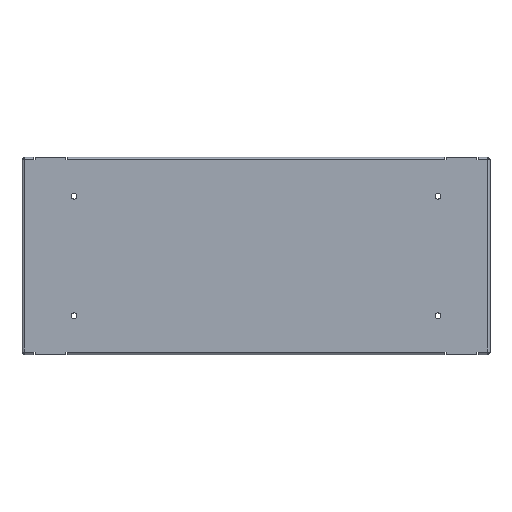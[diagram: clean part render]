
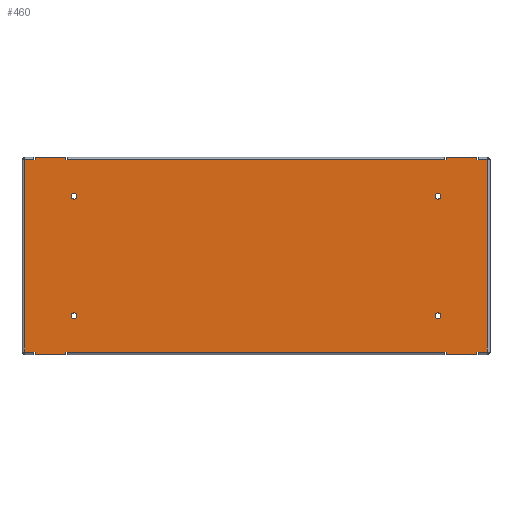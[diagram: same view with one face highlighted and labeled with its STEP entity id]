
A CAD part, top view. The second image highlights one B-rep face of the part: STEP entity #460.
In plain terms, the highlighted planar face has unit normal (0, 0, 1).
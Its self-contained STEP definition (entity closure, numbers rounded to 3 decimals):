
#460=ADVANCED_FACE('',(#1854,#1856,#1858,#1860,#1862),#1864,.F.);
#1854=FACE_BOUND('',#1855,.T.);
#1855=EDGE_LOOP('',(#3238,#3239,#3240,#3241,#3242,#3243,#3244,#3245,#3246,#3247,
#3248,#3249,#3250,#3251,#3252,#3253,#3254,#3255,#3256,#3257,#3258,#3259,#3260,#3261,
#3262,#3263,#3264,#3265));
#1856=FACE_BOUND('',#1857,.T.);
#1857=EDGE_LOOP('',(#3266));
#1858=FACE_BOUND('',#1859,.T.);
#1859=EDGE_LOOP('',(#3267));
#1860=FACE_BOUND('',#1861,.T.);
#1861=EDGE_LOOP('',(#3268));
#1862=FACE_BOUND('',#1863,.T.);
#1863=EDGE_LOOP('',(#3269));
#1864=PLANE('',#1865);
#1865=AXIS2_PLACEMENT_3D('',#1866,#1867,#1868);
#1866=CARTESIAN_POINT('',(0.,0.,0.));
#1867=DIRECTION('',(0.,0.,-1.));
#1868=DIRECTION('',(-1.,0.,0.));
#3238=ORIENTED_EDGE('',*,*,#3938,.T.);
#3239=ORIENTED_EDGE('',*,*,#3837,.T.);
#3240=ORIENTED_EDGE('',*,*,#3821,.T.);
#3241=ORIENTED_EDGE('',*,*,#3939,.F.);
#3242=ORIENTED_EDGE('',*,*,#3940,.F.);
#3243=ORIENTED_EDGE('',*,*,#3941,.F.);
#3244=ORIENTED_EDGE('',*,*,#3823,.T.);
#3245=ORIENTED_EDGE('',*,*,#3829,.T.);
#3246=ORIENTED_EDGE('',*,*,#3813,.T.);
#3247=ORIENTED_EDGE('',*,*,#3942,.F.);
#3248=ORIENTED_EDGE('',*,*,#3943,.F.);
#3249=ORIENTED_EDGE('',*,*,#3944,.F.);
#3250=ORIENTED_EDGE('',*,*,#3815,.T.);
#3251=ORIENTED_EDGE('',*,*,#3831,.T.);
#3252=ORIENTED_EDGE('',*,*,#3945,.T.);
#3253=ORIENTED_EDGE('',*,*,#3946,.T.);
#3254=ORIENTED_EDGE('',*,*,#3947,.F.);
#3255=ORIENTED_EDGE('',*,*,#3948,.T.);
#3256=ORIENTED_EDGE('',*,*,#3949,.T.);
#3257=ORIENTED_EDGE('',*,*,#3950,.T.);
#3258=ORIENTED_EDGE('',*,*,#3882,.F.);
#3259=ORIENTED_EDGE('',*,*,#3890,.T.);
#3260=ORIENTED_EDGE('',*,*,#3951,.F.);
#3261=ORIENTED_EDGE('',*,*,#3952,.T.);
#3262=ORIENTED_EDGE('',*,*,#3953,.T.);
#3263=ORIENTED_EDGE('',*,*,#3954,.T.);
#3264=ORIENTED_EDGE('',*,*,#3886,.F.);
#3265=ORIENTED_EDGE('',*,*,#3894,.T.);
#3266=ORIENTED_EDGE('',*,*,#3793,.T.);
#3267=ORIENTED_EDGE('',*,*,#3795,.T.);
#3268=ORIENTED_EDGE('',*,*,#3807,.F.);
#3269=ORIENTED_EDGE('',*,*,#3809,.F.);
#3793=EDGE_CURVE('',#4167,#4167,#4168,.T.);
#3795=EDGE_CURVE('',#4171,#4171,#4172,.T.);
#3807=EDGE_CURVE('',#4195,#4195,#4196,.T.);
#3809=EDGE_CURVE('',#4199,#4199,#4200,.T.);
#3813=EDGE_CURVE('',#4208,#4206,#4209,.T.);
#3815=EDGE_CURVE('',#4211,#4212,#4213,.T.);
#3821=EDGE_CURVE('',#4224,#4222,#4225,.T.);
#3823=EDGE_CURVE('',#4227,#4228,#4229,.T.);
#3829=EDGE_CURVE('',#4228,#4208,#4239,.T.);
#3831=EDGE_CURVE('',#4212,#4241,#4242,.T.);
#3837=EDGE_CURVE('',#4252,#4224,#4253,.T.);
#3882=EDGE_CURVE('',#4324,#4320,#4326,.T.);
#3886=EDGE_CURVE('',#4332,#4328,#4334,.T.);
#3890=EDGE_CURVE('',#4324,#4339,#4341,.T.);
#3894=EDGE_CURVE('',#4332,#4346,#4348,.T.);
#3938=EDGE_CURVE('',#4346,#4252,#4420,.T.);
#3939=EDGE_CURVE('',#4421,#4222,#4422,.T.);
#3940=EDGE_CURVE('',#4423,#4421,#4424,.T.);
#3941=EDGE_CURVE('',#4227,#4423,#4425,.T.);
#3942=EDGE_CURVE('',#4426,#4206,#4427,.T.);
#3943=EDGE_CURVE('',#4428,#4426,#4429,.T.);
#3944=EDGE_CURVE('',#4211,#4428,#4430,.T.);
#3945=EDGE_CURVE('',#4241,#4431,#4432,.T.);
#3946=EDGE_CURVE('',#4431,#4433,#4434,.T.);
#3947=EDGE_CURVE('',#4435,#4433,#4436,.T.);
#3948=EDGE_CURVE('',#4435,#4437,#4438,.T.);
#3949=EDGE_CURVE('',#4437,#4439,#4440,.T.);
#3950=EDGE_CURVE('',#4439,#4320,#4441,.T.);
#3951=EDGE_CURVE('',#4442,#4339,#4443,.T.);
#3952=EDGE_CURVE('',#4442,#4444,#4445,.T.);
#3953=EDGE_CURVE('',#4444,#4446,#4447,.T.);
#3954=EDGE_CURVE('',#4446,#4328,#4448,.T.);
#4167=VERTEX_POINT('',#4779);
#4168=CIRCLE('',#4780,3.65);
#4171=VERTEX_POINT('',#4789);
#4172=CIRCLE('',#4790,3.65);
#4195=VERTEX_POINT('',#4849);
#4196=CIRCLE('',#4850,3.65);
#4199=VERTEX_POINT('',#4859);
#4200=CIRCLE('',#4860,3.65);
#4206=VERTEX_POINT('',#4874);
#4208=VERTEX_POINT('',#4878);
#4209=LINE('',#4879,#4880);
#4211=VERTEX_POINT('',#4885);
#4212=VERTEX_POINT('',#4886);
#4213=LINE('',#4887,#4888);
#4222=VERTEX_POINT('',#4906);
#4224=VERTEX_POINT('',#4910);
#4225=LINE('',#4911,#4912);
#4227=VERTEX_POINT('',#4917);
#4228=VERTEX_POINT('',#4918);
#4229=LINE('',#4919,#4920);
#4239=LINE('',#4942,#4943);
#4241=VERTEX_POINT('',#4949);
#4242=LINE('',#4950,#4951);
#4252=VERTEX_POINT('',#4988);
#4253=LINE('',#4989,#4990);
#4320=VERTEX_POINT('',#5184);
#4324=VERTEX_POINT('',#5192);
#4326=LINE('',#5196,#5197);
#4328=VERTEX_POINT('',#5200);
#4332=VERTEX_POINT('',#5208);
#4334=LINE('',#5212,#5213);
#4339=VERTEX_POINT('',#5224);
#4341=LINE('',#5229,#5230);
#4346=VERTEX_POINT('',#5241);
#4348=LINE('',#5259,#5260);
#4420=LINE('',#5435,#5436);
#4421=VERTEX_POINT('',#5438);
#4422=LINE('',#5439,#5440);
#4423=VERTEX_POINT('',#5442);
#4424=LINE('',#5443,#5444);
#4425=LINE('',#5446,#5447);
#4426=VERTEX_POINT('',#5449);
#4427=LINE('',#5450,#5451);
#4428=VERTEX_POINT('',#5453);
#4429=LINE('',#5454,#5455);
#4430=LINE('',#5457,#5458);
#4431=VERTEX_POINT('',#5460);
#4432=LINE('',#5461,#5462);
#4433=VERTEX_POINT('',#5464);
#4434=LINE('',#5465,#5466);
#4435=VERTEX_POINT('',#5468);
#4436=LINE('',#5469,#5470);
#4437=VERTEX_POINT('',#5472);
#4438=LINE('',#5473,#5474);
#4439=VERTEX_POINT('',#5476);
#4440=LINE('',#5477,#5478);
#4441=LINE('',#5480,#5481);
#4442=VERTEX_POINT('',#5483);
#4443=LINE('',#5484,#5485);
#4444=VERTEX_POINT('',#5487);
#4445=LINE('',#5488,#5489);
#4446=VERTEX_POINT('',#5491);
#4447=LINE('',#5492,#5493);
#4448=LINE('',#5495,#5496);
#4779=CARTESIAN_POINT('',(-224.35,-75.,0.));
#4780=AXIS2_PLACEMENT_3D('',#4781,#4782,#4783);
#4781=CARTESIAN_POINT('',(-228.,-75.,0.));
#4782=DIRECTION('',(0.,0.,-1.));
#4783=DIRECTION('',(1.,0.,0.));
#4789=CARTESIAN_POINT('',(231.65,-75.,0.));
#4790=AXIS2_PLACEMENT_3D('',#4791,#4792,#4793);
#4791=CARTESIAN_POINT('',(228.,-75.,0.));
#4792=DIRECTION('',(0.,0.,-1.));
#4793=DIRECTION('',(1.,0.,0.));
#4849=CARTESIAN_POINT('',(-224.35,75.,0.));
#4850=AXIS2_PLACEMENT_3D('',#4851,#4852,#4853);
#4851=CARTESIAN_POINT('',(-228.,75.,0.));
#4852=DIRECTION('',(0.,0.,1.));
#4853=DIRECTION('',(-1.,0.,0.));
#4859=CARTESIAN_POINT('',(231.65,75.,0.));
#4860=AXIS2_PLACEMENT_3D('',#4861,#4862,#4863);
#4861=CARTESIAN_POINT('',(228.,75.,0.));
#4862=DIRECTION('',(0.,0.,1.));
#4863=DIRECTION('',(-1.,0.,0.));
#4874=CARTESIAN_POINT('',(238.2,-120.3,0.));
#4878=CARTESIAN_POINT('',(236.2,-120.3,0.));
#4879=CARTESIAN_POINT('',(236.2,-120.3,0.));
#4880=VECTOR('',#4881,1.);
#4881=DIRECTION('',(1.,0.,0.));
#4885=CARTESIAN_POINT('',(276.2,-120.3,0.));
#4886=CARTESIAN_POINT('',(278.2,-120.3,0.));
#4887=CARTESIAN_POINT('',(276.2,-120.3,0.));
#4888=VECTOR('',#4889,1.);
#4889=DIRECTION('',(1.,0.,0.));
#4906=CARTESIAN_POINT('',(-276.2,-120.3,0.));
#4910=CARTESIAN_POINT('',(-278.2,-120.3,0.));
#4911=CARTESIAN_POINT('',(-278.2,-120.3,0.));
#4912=VECTOR('',#4913,1.);
#4913=DIRECTION('',(1.,0.,0.));
#4917=CARTESIAN_POINT('',(-238.2,-120.3,0.));
#4918=CARTESIAN_POINT('',(-236.2,-120.3,0.));
#4919=CARTESIAN_POINT('',(-238.2,-120.3,0.));
#4920=VECTOR('',#4921,1.);
#4921=DIRECTION('',(1.,0.,0.));
#4942=CARTESIAN_POINT('',(-236.2,-120.3,0.));
#4943=VECTOR('',#4944,1.);
#4944=DIRECTION('',(1.,0.,0.));
#4949=CARTESIAN_POINT('',(290.,-120.3,0.));
#4950=CARTESIAN_POINT('',(278.2,-120.3,0.));
#4951=VECTOR('',#4952,1.);
#4952=DIRECTION('',(1.,0.,0.));
#4988=CARTESIAN_POINT('',(-290.,-120.3,0.));
#4989=CARTESIAN_POINT('',(-290.,-120.3,0.));
#4990=VECTOR('',#4991,1.);
#4991=DIRECTION('',(1.,0.,0.));
#5184=CARTESIAN_POINT('',(238.2,120.3,0.));
#5192=CARTESIAN_POINT('',(236.2,120.3,0.));
#5196=CARTESIAN_POINT('',(236.2,120.3,0.));
#5197=VECTOR('',#5198,1.);
#5198=DIRECTION('',(1.,0.,0.));
#5200=CARTESIAN_POINT('',(-276.2,120.3,0.));
#5208=CARTESIAN_POINT('',(-278.2,120.3,0.));
#5212=CARTESIAN_POINT('',(-278.2,120.3,0.));
#5213=VECTOR('',#5214,1.);
#5214=DIRECTION('',(1.,0.,0.));
#5224=CARTESIAN_POINT('',(-236.2,120.3,0.));
#5229=CARTESIAN_POINT('',(236.2,120.3,0.));
#5230=VECTOR('',#5231,1.);
#5231=DIRECTION('',(-1.,0.,0.));
#5241=CARTESIAN_POINT('',(-290.,120.3,0.));
#5259=CARTESIAN_POINT('',(-278.2,120.3,0.));
#5260=VECTOR('',#5261,1.);
#5261=DIRECTION('',(-1.,0.,0.));
#5435=CARTESIAN_POINT('',(-290.,120.3,0.));
#5436=VECTOR('',#5437,1.);
#5437=DIRECTION('',(0.,-1.,0.));
#5438=CARTESIAN_POINT('',(-276.2,-123.5,0.));
#5439=CARTESIAN_POINT('',(-276.2,-123.5,0.));
#5440=VECTOR('',#5441,1.);
#5441=DIRECTION('',(0.,1.,0.));
#5442=CARTESIAN_POINT('',(-238.2,-123.5,0.));
#5443=CARTESIAN_POINT('',(-238.2,-123.5,0.));
#5444=VECTOR('',#5445,1.);
#5445=DIRECTION('',(-1.,0.,0.));
#5446=CARTESIAN_POINT('',(-238.2,-120.3,0.));
#5447=VECTOR('',#5448,1.);
#5448=DIRECTION('',(0.,-1.,0.));
#5449=CARTESIAN_POINT('',(238.2,-123.5,0.));
#5450=CARTESIAN_POINT('',(238.2,-123.5,0.));
#5451=VECTOR('',#5452,1.);
#5452=DIRECTION('',(0.,1.,0.));
#5453=CARTESIAN_POINT('',(276.2,-123.5,0.));
#5454=CARTESIAN_POINT('',(276.2,-123.5,0.));
#5455=VECTOR('',#5456,1.);
#5456=DIRECTION('',(-1.,0.,0.));
#5457=CARTESIAN_POINT('',(276.2,-120.3,0.));
#5458=VECTOR('',#5459,1.);
#5459=DIRECTION('',(0.,-1.,0.));
#5460=CARTESIAN_POINT('',(290.,120.3,0.));
#5461=CARTESIAN_POINT('',(290.,-120.3,0.));
#5462=VECTOR('',#5463,1.);
#5463=DIRECTION('',(0.,1.,0.));
#5464=CARTESIAN_POINT('',(278.2,120.3,0.));
#5465=CARTESIAN_POINT('',(290.,120.3,0.));
#5466=VECTOR('',#5467,1.);
#5467=DIRECTION('',(-1.,0.,0.));
#5468=CARTESIAN_POINT('',(276.2,120.3,0.));
#5469=CARTESIAN_POINT('',(276.2,120.3,0.));
#5470=VECTOR('',#5471,1.);
#5471=DIRECTION('',(1.,0.,0.));
#5472=CARTESIAN_POINT('',(276.2,123.5,0.));
#5473=CARTESIAN_POINT('',(276.2,120.3,0.));
#5474=VECTOR('',#5475,1.);
#5475=DIRECTION('',(0.,1.,0.));
#5476=CARTESIAN_POINT('',(238.2,123.5,0.));
#5477=CARTESIAN_POINT('',(276.2,123.5,0.));
#5478=VECTOR('',#5479,1.);
#5479=DIRECTION('',(-1.,0.,0.));
#5480=CARTESIAN_POINT('',(238.2,123.5,0.));
#5481=VECTOR('',#5482,1.);
#5482=DIRECTION('',(0.,-1.,0.));
#5483=CARTESIAN_POINT('',(-238.2,120.3,0.));
#5484=CARTESIAN_POINT('',(-238.2,120.3,0.));
#5485=VECTOR('',#5486,1.);
#5486=DIRECTION('',(1.,0.,0.));
#5487=CARTESIAN_POINT('',(-238.2,123.5,0.));
#5488=CARTESIAN_POINT('',(-238.2,120.3,0.));
#5489=VECTOR('',#5490,1.);
#5490=DIRECTION('',(0.,1.,0.));
#5491=CARTESIAN_POINT('',(-276.2,123.5,0.));
#5492=CARTESIAN_POINT('',(-238.2,123.5,0.));
#5493=VECTOR('',#5494,1.);
#5494=DIRECTION('',(-1.,0.,0.));
#5495=CARTESIAN_POINT('',(-276.2,123.5,0.));
#5496=VECTOR('',#5497,1.);
#5497=DIRECTION('',(0.,-1.,0.));
